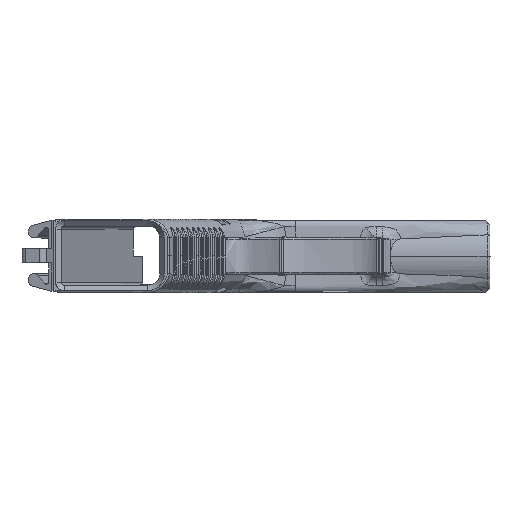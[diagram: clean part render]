
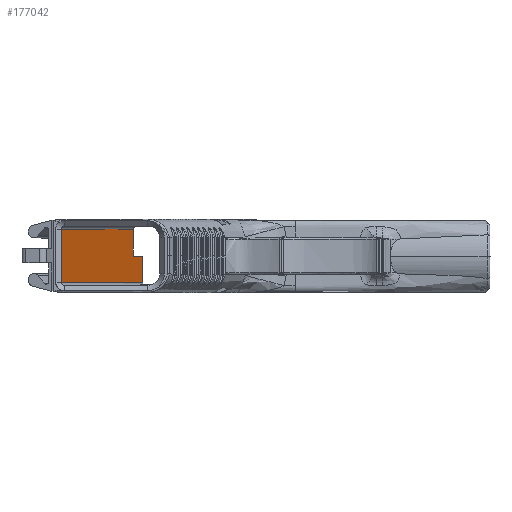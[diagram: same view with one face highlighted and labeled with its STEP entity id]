
A CAD part, top view. The second image highlights one B-rep face of the part: STEP entity #177042.
In plain terms, the highlighted planar face has unit normal (0.951, 0, 0.309).
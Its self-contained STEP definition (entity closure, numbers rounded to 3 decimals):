
#2766 = EDGE_CURVE ( 'NONE', #224204, #129481, #94658, .T. ) ;
#8499 = CARTESIAN_POINT ( 'NONE',  ( 49.444, 9.399, -88.458 ) ) ;
#21450 = DIRECTION ( 'NONE',  ( 0., -1., 0. ) ) ;
#22174 = EDGE_CURVE ( 'NONE', #96967, #224204, #192865, .T. ) ;
#23737 = PLANE ( 'NONE',  #193828 ) ;
#24660 = LINE ( 'NONE', #219562, #69425 ) ;
#31975 = VECTOR ( 'NONE', #54134, 1000. ) ;
#33051 = ORIENTED_EDGE ( 'NONE', *, *, #2766, .F. ) ;
#35969 = LINE ( 'NONE', #63033, #179424 ) ;
#41477 = CARTESIAN_POINT ( 'NONE',  ( 52.856, 0.001, -98.958 ) ) ;
#43480 = VECTOR ( 'NONE', #128415, 1000. ) ;
#45062 = EDGE_LOOP ( 'NONE', ( #53407, #33051, #147585, #151180, #94237, #98138 ) ) ;
#45417 = DIRECTION ( 'NONE',  ( -0.309, 0., 0.951 ) ) ;
#53407 = ORIENTED_EDGE ( 'NONE', *, *, #205052, .F. ) ;
#54134 = DIRECTION ( 'NONE',  ( 0.309, 0., -0.951 ) ) ;
#54157 = CARTESIAN_POINT ( 'NONE',  ( 24.128, 0., -10.543 ) ) ;
#54993 = VECTOR ( 'NONE', #179102, 1000. ) ;
#61391 = EDGE_CURVE ( 'NONE', #150080, #96967, #204194, .T. ) ;
#63009 = CARTESIAN_POINT ( 'NONE',  ( 52.856, 0.002, -98.958 ) ) ;
#63033 = CARTESIAN_POINT ( 'NONE',  ( 52.695, -9.399, -98.462 ) ) ;
#69425 = VECTOR ( 'NONE', #181960, 1000. ) ;
#69646 = CARTESIAN_POINT ( 'NONE',  ( 24.128, -9.399, -10.543 ) ) ;
#74460 = EDGE_CURVE ( 'NONE', #236954, #150080, #24660, .T. ) ;
#80412 = CARTESIAN_POINT ( 'NONE',  ( 49.444, 0.002, -88.458 ) ) ;
#94237 = ORIENTED_EDGE ( 'NONE', *, *, #74460, .F. ) ;
#94658 = LINE ( 'NONE', #41477, #208197 ) ;
#95159 = VERTEX_POINT ( 'NONE', #69646 ) ;
#96967 = VERTEX_POINT ( 'NONE', #80412 ) ;
#98138 = ORIENTED_EDGE ( 'NONE', *, *, #128053, .F. ) ;
#120595 = DIRECTION ( 'NONE',  ( -0.309, 0., 0.951 ) ) ;
#128053 = EDGE_CURVE ( 'NONE', #95159, #236954, #198695, .T. ) ;
#128415 = DIRECTION ( 'NONE',  ( 0., 1., 0. ) ) ;
#129481 = VERTEX_POINT ( 'NONE', #169979 ) ;
#147585 = ORIENTED_EDGE ( 'NONE', *, *, #22174, .F. ) ;
#150080 = VERTEX_POINT ( 'NONE', #8499 ) ;
#151180 = ORIENTED_EDGE ( 'NONE', *, *, #61391, .F. ) ;
#169979 = CARTESIAN_POINT ( 'NONE',  ( 52.856, -9.399, -98.958 ) ) ;
#177042 = ADVANCED_FACE ( 'NONE', ( #241964 ), #23737, .F. ) ;
#179102 = DIRECTION ( 'NONE',  ( 0., -1., 0. ) ) ;
#179424 = VECTOR ( 'NONE', #120595, 1000. ) ;
#181960 = DIRECTION ( 'NONE',  ( 0.309, 0., -0.951 ) ) ;
#190093 = CARTESIAN_POINT ( 'NONE',  ( 52.695, 0.002, -98.462 ) ) ;
#192865 = LINE ( 'NONE', #190093, #31975 ) ;
#193828 = AXIS2_PLACEMENT_3D ( 'NONE', #214886, #235746, #45417 ) ;
#198695 = LINE ( 'NONE', #54157, #43480 ) ;
#204194 = LINE ( 'NONE', #236761, #54993 ) ;
#205052 = EDGE_CURVE ( 'NONE', #129481, #95159, #35969, .T. ) ;
#208197 = VECTOR ( 'NONE', #21450, 1000. ) ;
#214886 = CARTESIAN_POINT ( 'NONE',  ( 52.695, 0., -98.462 ) ) ;
#219562 = CARTESIAN_POINT ( 'NONE',  ( 52.695, 9.399, -98.462 ) ) ;
#224204 = VERTEX_POINT ( 'NONE', #63009 ) ;
#233339 = CARTESIAN_POINT ( 'NONE',  ( 24.128, 9.399, -10.543 ) ) ;
#235746 = DIRECTION ( 'NONE',  ( -0.951, 0., -0.309 ) ) ;
#236761 = CARTESIAN_POINT ( 'NONE',  ( 49.444, 0., -88.458 ) ) ;
#236954 = VERTEX_POINT ( 'NONE', #233339 ) ;
#241964 = FACE_OUTER_BOUND ( 'NONE', #45062, .T. ) ;
